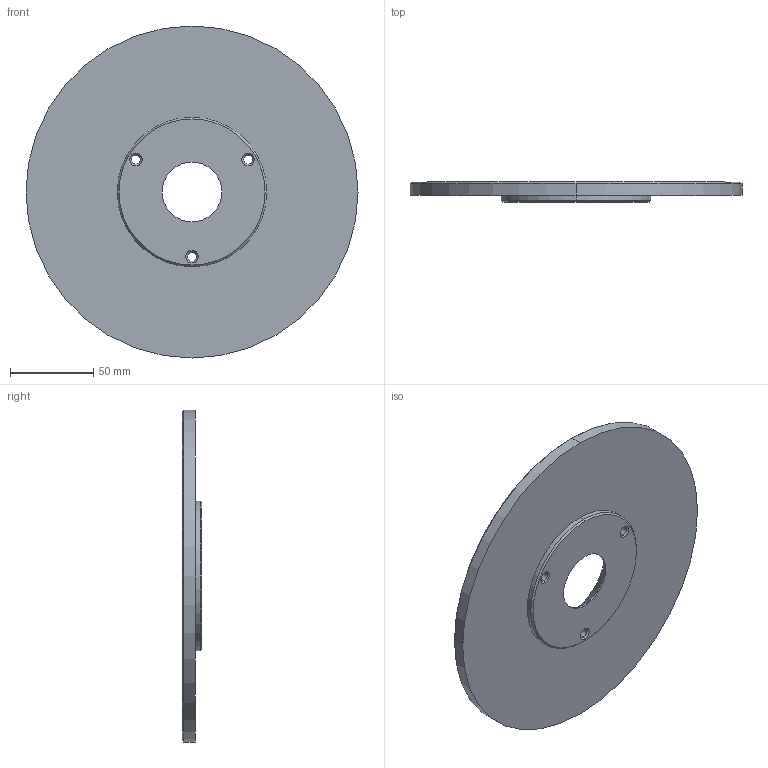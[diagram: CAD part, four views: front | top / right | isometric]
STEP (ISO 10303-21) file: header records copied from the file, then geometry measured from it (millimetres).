
FILE_DESCRIPTION (( 'STEP AP214' ), '1' );
FILE_NAME ('BR1000-200x12.STEP', '2020-02-05T12:24:42', ( 'August' ), ( '' ), 'SwSTEP 2.0', 'SolidWorks 2018', '' );
FILE_SCHEMA (( 'AUTOMOTIVE_DESIGN' ));
Length unit declared in the file: millimetre
Products named in the file (1): BR1000-200x12
Bounding box: 200 x 12 x 200 mm (x, y, z)
Volume: 254160.3 mm3; surface area: 67815 mm2
Topology: 1 solids, 1 shells, 42 faces, 90 edges, 54 vertices
Faces by surface type: cone 18, cylinder 18, plane 6
Entity records: 1194 total; most frequent: DIRECTION 230, CARTESIAN_POINT 187, ORIENTED_EDGE 180, AXIS2_PLACEMENT_3D 97, EDGE_CURVE 90, EDGE_LOOP 54, CIRCLE 54, VERTEX_POINT 54
